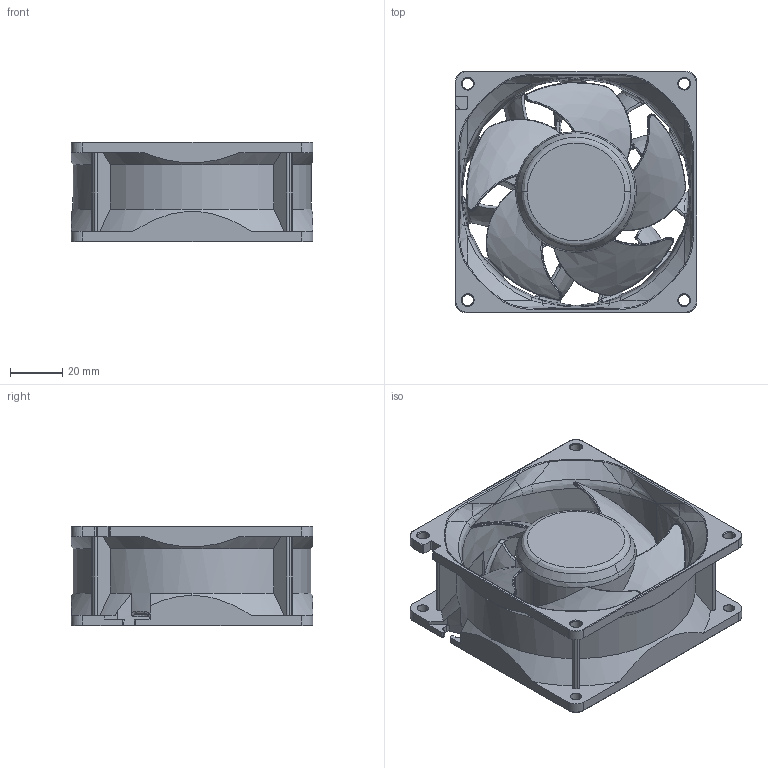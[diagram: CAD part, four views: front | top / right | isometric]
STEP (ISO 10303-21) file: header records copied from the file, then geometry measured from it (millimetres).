
FILE_DESCRIPTION (( 'STEP AP203' ), '1' );
FILE_NAME ('SanAce_9WL_92x38_RL.STEP', '2021-07-12T07:41:32', ( '' ), ( '' ), 'SwSTEP 2.0', 'SolidWorks 2019', '' );
FILE_SCHEMA (( 'CONFIG_CONTROL_DESIGN' ));
Length unit declared in the file: millimetre
Products named in the file (1): SanAce_9WL_92x38_RL
Bounding box: 92 x 92 x 38 mm (x, y, z)
Volume: 102639.2 mm3; surface area: 51939.3 mm2
Topology: 1 solids, 1 shells, 868 faces, 2321 edges, 1383 vertices
Faces by surface type: bspline 581, cylinder 115, plane 110, cone 62
Entity records: 51691 total; most frequent: CARTESIAN_POINT 35078, ORIENTED_EDGE 4522, EDGE_CURVE 2261, DIRECTION 2100, VERTEX_POINT 1383, B_SPLINE_CURVE_WITH_KNOTS 1219, AXIS2_PLACEMENT_3D 917, EDGE_LOOP 894
